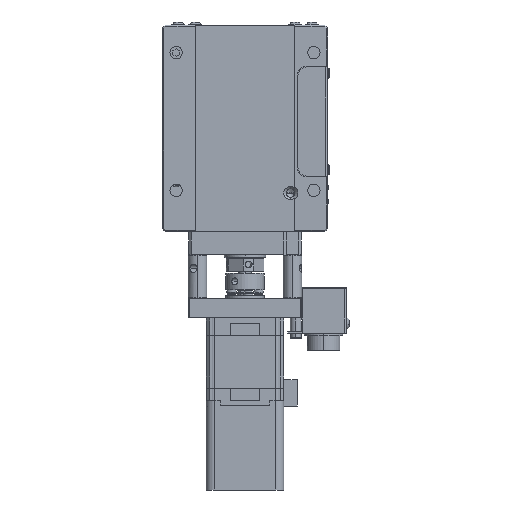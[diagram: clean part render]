
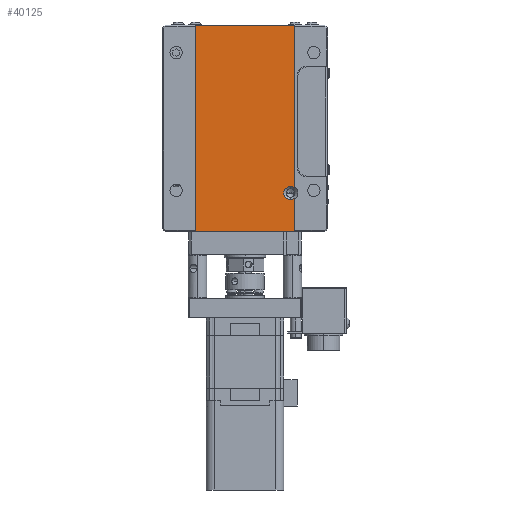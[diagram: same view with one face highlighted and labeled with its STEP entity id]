
A CAD part, front view. The second image highlights one B-rep face of the part: STEP entity #40125.
In plain terms, the highlighted planar face has unit normal (0, -1, 0).
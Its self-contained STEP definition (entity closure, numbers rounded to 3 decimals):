
#613 = AXIS2_PLACEMENT_3D ( 'NONE', #28865, #65788, #34509 ) ;
#1455 = VERTEX_POINT ( 'NONE', #35109 ) ;
#2116 = AXIS2_PLACEMENT_3D ( 'NONE', #29447, #3085, #67756 ) ;
#3085 = DIRECTION ( 'NONE',  ( 0., -1., 0. ) ) ;
#3167 = LINE ( 'NONE', #47082, #65882 ) ;
#5456 = CARTESIAN_POINT ( 'NONE',  ( -31.949, -11.301, 78.894 ) ) ;
#7932 = CARTESIAN_POINT ( 'NONE',  ( 4.051, -11.301, 4.294 ) ) ;
#8016 = PLANE ( 'NONE',  #2116 ) ;
#8967 = CARTESIAN_POINT ( 'NONE',  ( 4.051, -11.301, 19.968 ) ) ;
#10022 = EDGE_CURVE ( 'NONE', #31686, #68196, #61405, .T. ) ;
#10474 = ORIENTED_EDGE ( 'NONE', *, *, #10022, .T. ) ;
#11411 = VECTOR ( 'NONE', #64785, 1000. ) ;
#11474 = DIRECTION ( 'NONE',  ( 0., 0., -1. ) ) ;
#12817 = CARTESIAN_POINT ( 'NONE',  ( -31.949, -11.301, 4.294 ) ) ;
#13204 = LINE ( 'NONE', #29382, #54855 ) ;
#15276 = DIRECTION ( 'NONE',  ( 0., 1., 0. ) ) ;
#17690 = EDGE_CURVE ( 'NONE', #1455, #19409, #50766, .T. ) ;
#19409 = VERTEX_POINT ( 'NONE', #31817 ) ;
#21533 = ORIENTED_EDGE ( 'NONE', *, *, #17690, .T. ) ;
#21551 = LINE ( 'NONE', #43024, #11411 ) ;
#23497 = VERTEX_POINT ( 'NONE', #7932 ) ;
#24617 = CARTESIAN_POINT ( 'NONE',  ( 2.551, -11.301, 18.094 ) ) ;
#25365 = ORIENTED_EDGE ( 'NONE', *, *, #32338, .T. ) ;
#25467 = DIRECTION ( 'NONE',  ( 0., 0., -1. ) ) ;
#28865 = CARTESIAN_POINT ( 'NONE',  ( 2.551, -11.301, 18.094 ) ) ;
#29226 = VECTOR ( 'NONE', #44659, 1000. ) ;
#29382 = CARTESIAN_POINT ( 'NONE',  ( -13.949, -11.301, 78.894 ) ) ;
#29447 = CARTESIAN_POINT ( 'NONE',  ( -13.949, -11.301, 4.094 ) ) ;
#29583 = CARTESIAN_POINT ( 'NONE',  ( 4.051, -11.301, 78.894 ) ) ;
#30578 = DIRECTION ( 'NONE',  ( 0., 1., 0. ) ) ;
#30745 = CARTESIAN_POINT ( 'NONE',  ( 2.551, -11.301, 18.094 ) ) ;
#31686 = VERTEX_POINT ( 'NONE', #8967 ) ;
#31817 = CARTESIAN_POINT ( 'NONE',  ( 2.551, -11.301, 15.694 ) ) ;
#32338 = EDGE_CURVE ( 'NONE', #19409, #68687, #66256, .T. ) ;
#32585 = CARTESIAN_POINT ( 'NONE',  ( 2.551, -11.301, 20.494 ) ) ;
#34235 = EDGE_CURVE ( 'NONE', #68687, #31686, #45517, .T. ) ;
#34509 = DIRECTION ( 'NONE',  ( 0., 0., -1. ) ) ;
#34713 = CARTESIAN_POINT ( 'NONE',  ( 4.051, -11.301, 4.094 ) ) ;
#35109 = CARTESIAN_POINT ( 'NONE',  ( 4.051, -11.301, 16.221 ) ) ;
#38361 = AXIS2_PLACEMENT_3D ( 'NONE', #30745, #15276, #25467 ) ;
#38395 = ORIENTED_EDGE ( 'NONE', *, *, #69075, .T. ) ;
#39032 = LINE ( 'NONE', #60121, #29226 ) ;
#40125 = ADVANCED_FACE ( 'NONE', ( #56158 ), #8016, .T. ) ;
#42548 = EDGE_CURVE ( 'NONE', #48523, #23497, #21551, .T. ) ;
#43024 = CARTESIAN_POINT ( 'NONE',  ( -13.949, -11.301, 4.294 ) ) ;
#44659 = DIRECTION ( 'NONE',  ( 0., 0., -1. ) ) ;
#45517 = CIRCLE ( 'NONE', #613, 2.4 ) ;
#47082 = CARTESIAN_POINT ( 'NONE',  ( 4.051, -11.301, 4.094 ) ) ;
#48523 = VERTEX_POINT ( 'NONE', #12817 ) ;
#50514 = DIRECTION ( 'NONE',  ( 0., 0., 1. ) ) ;
#50766 = CIRCLE ( 'NONE', #38361, 2.4 ) ;
#54855 = VECTOR ( 'NONE', #61001, 1000. ) ;
#56158 = FACE_OUTER_BOUND ( 'NONE', #61522, .T. ) ;
#56531 = VECTOR ( 'NONE', #50514, 1000. ) ;
#57614 = DIRECTION ( 'NONE',  ( 0., 0., 1. ) ) ;
#57682 = ORIENTED_EDGE ( 'NONE', *, *, #65450, .T. ) ;
#58375 = ORIENTED_EDGE ( 'NONE', *, *, #34235, .T. ) ;
#60121 = CARTESIAN_POINT ( 'NONE',  ( -31.949, -11.301, 4.094 ) ) ;
#60793 = EDGE_CURVE ( 'NONE', #23497, #1455, #3167, .T. ) ;
#61001 = DIRECTION ( 'NONE',  ( -1., 0., 0. ) ) ;
#61405 = LINE ( 'NONE', #34713, #56531 ) ;
#61522 = EDGE_LOOP ( 'NONE', ( #58375, #10474, #57682, #38395, #67111, #61765, #21533, #25365 ) ) ;
#61765 = ORIENTED_EDGE ( 'NONE', *, *, #60793, .T. ) ;
#62892 = AXIS2_PLACEMENT_3D ( 'NONE', #24617, #30578, #11474 ) ;
#64785 = DIRECTION ( 'NONE',  ( 1., 0., 0. ) ) ;
#65450 = EDGE_CURVE ( 'NONE', #68196, #66493, #13204, .T. ) ;
#65788 = DIRECTION ( 'NONE',  ( 0., 1., 0. ) ) ;
#65882 = VECTOR ( 'NONE', #57614, 1000. ) ;
#66256 = CIRCLE ( 'NONE', #62892, 2.4 ) ;
#66493 = VERTEX_POINT ( 'NONE', #5456 ) ;
#67111 = ORIENTED_EDGE ( 'NONE', *, *, #42548, .T. ) ;
#67756 = DIRECTION ( 'NONE',  ( 0., 0., -1. ) ) ;
#68196 = VERTEX_POINT ( 'NONE', #29583 ) ;
#68687 = VERTEX_POINT ( 'NONE', #32585 ) ;
#69075 = EDGE_CURVE ( 'NONE', #66493, #48523, #39032, .T. ) ;
